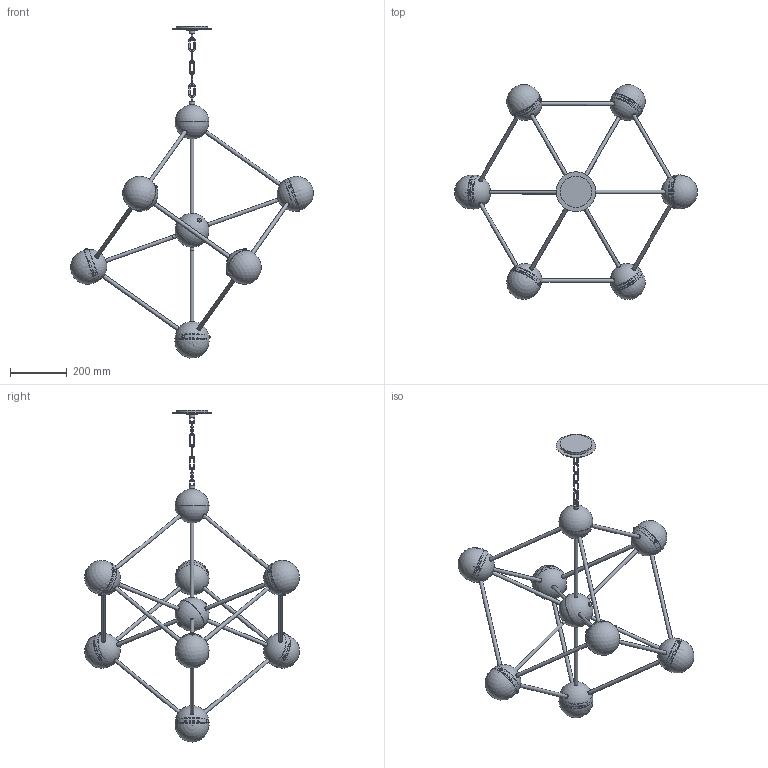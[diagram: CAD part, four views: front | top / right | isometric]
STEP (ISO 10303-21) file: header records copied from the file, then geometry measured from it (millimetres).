
FILE_DESCRIPTION(/* description */ (''),/* implementation_level */ '2;1');
FILE_NAME(/* name */ 'T:\B215 Molecule Chandelier MD\Pliki bryłowe handlowe\B215 Molecule 3D files_na stronę\B215 Molecule.stp',/* time_stamp */ '2022-02-02T15:21:12+01:00',/* author */ ('Mariusz Awariusz'),/* organization */ (''),/* preprocessor_version */ 'ST-DEVELOPER v18.1',/* originating_system */ 'Autodesk Inventor 2022',/* authorisation */ '');
FILE_SCHEMA (('AUTOMOTIVE_DESIGN { 1 0 10303 214 3 1 1 }'));
Products named in the file (1): Klosz CE_ze szkłem_na potrzeby plików 3D_2_jako część_
korpusy bryłowe
Bounding box: 856.93 x 757.96 x 1170.77 mm (x, y, z)
Volume: 1771214.2 mm3; surface area: 1267270.8 mm2
Topology: 1333 solids, 1335 shells, 10791 faces, 24393 edges, 16199 vertices
Faces by surface type: plane 8982, cylinder 1440, bspline 168, torus 88, sphere 61, cone 52
Full cylindrical faces by diameter (mm): 3.242 x21, 4 x27, 5 x8, 6.5 x21, 10 x21, 13 x20, 13.5 x24, 20 x2, 34.5 x1, 36 x1, 109 x7, 110 x1, 112 x7, 140 x1
Entity records: 304106 total; most frequent: CARTESIAN_POINT 59989, ORIENTED_EDGE 48722, DIRECTION 48504, EDGE_CURVE 24361, LINE 20494, VECTOR 20494, VERTEX_POINT 16199, AXIS2_PLACEMENT_3D 14005
